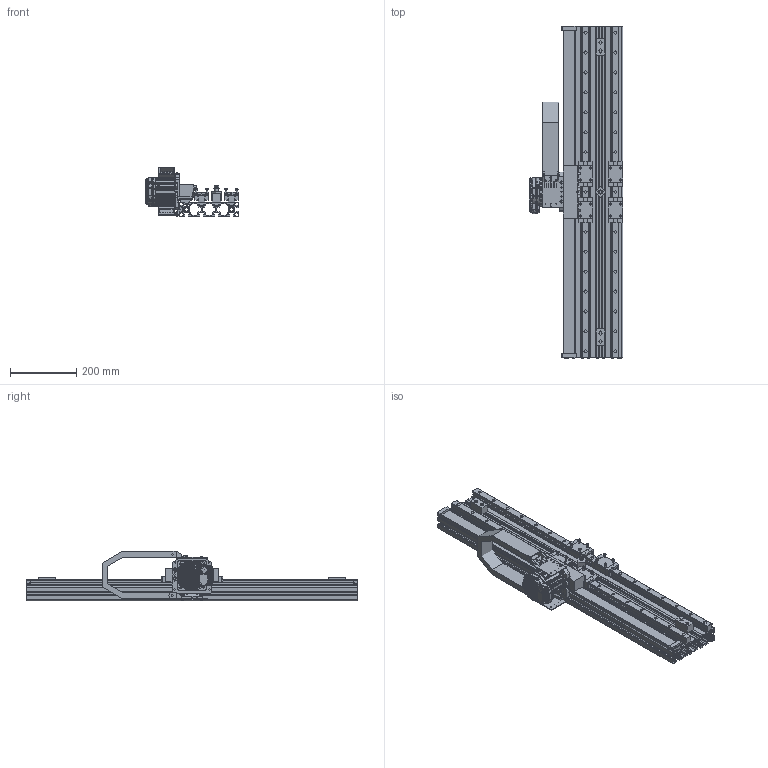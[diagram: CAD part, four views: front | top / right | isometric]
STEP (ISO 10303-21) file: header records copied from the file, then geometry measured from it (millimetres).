
FILE_DESCRIPTION( ( '' ), ' ' );
FILE_NAME( '/vol/tmp/translate-16591366833736035889/5ce2cbc83c3c171654916089.step', '2019-05-20T15:46:22', ( '' ), ( '' ), ' ', ' ', ' ' );
FILE_SCHEMA( ( 'AUTOMOTIVE_DESIGN { 1 0 10303 214 1 1 1 1 }' ) );
Length unit declared in the file: metre
Products named in the file (103): RAIL FASTENERS <10>; 20mm BEARING RAIL CAP; 102684-001 BOSCH 10mm T-BLOCK M5; 100001-8065 M5-.80 X 25 ALLOY SHCS; RAIL FASTENERS <3>; RAIL FASTENERS <11>; TRAY FASTENERS <5>; #7950; #7958; RAIL FASTENERS <17>; RAIL FASTENERS <6>; RAIL FASTENERS <1>; RAIL FASTENERS <14>; RAIL FASTENERS <15>; RAIL FASTENERS <16>; RAIL FASTENERS <4>; RAIL FASTENERS <2>; RAIL FASTENERS <5>; TRAY FASTENERS <1>; RAIL FASTENERS <7>; RAIL FASTENERS <9>; RAIL FASTENERS <12>; RAIL FASTENERS <13>; RAIL FASTENERS <8>; TRAY FASTENERS <3>; TRAY FASTENERS <2>; TRAY FASTENERS <4>; 104587-001 SBL-M DYNAMIC BEARING ASSEMBLY <2>; 103126-001 SBL-M BEARING SHAFT; 102638-005 5202 SHIELDED DOUBLE ROW BALL BEARING; RAIL <1>; 106888-001 20mm RAIL COVER; 102732-1000 20mm STANDARD GUIDE RAIL; RAIL <2>; CPM34XX & PINION <1>; 100013-008 M4 X 6 SS SET SCREW; 102695-001 SERVOBELT PINION GEAR 15T .500 BORE; GENERIC CPM 342X; TRAY <1>; 102656-1000 SBL-M BELT TRAY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
Assembly tree (277 placements, depth 5):
  Assem1
    102567-001 T5 X 32mm BELTING
    102977-001 LINKS
    1000 CHASSIS <1>
      102572-1000 45-SERIES PROFILE 45X180H
      RAIL <1>
        106888-001 20mm RAIL COVER
        102732-1000 20mm STANDARD GUIDE RAIL
        RAIL FASTENERS <3>
          100001-8065 M5-.80 X 25 ALLOY SHCS
          102684-001 BOSCH 10mm T-BLOCK M5
          20mm BEARING RAIL CAP
        RAIL FASTENERS <15>
          100001-8065 M5-.80 X 25 ALLOY SHCS
          102684-001 BOSCH 10mm T-BLOCK M5
          20mm BEARING RAIL CAP
        RAIL FASTENERS <8>
          102684-001 BOSCH 10mm T-BLOCK M5
          100001-8065 M5-.80 X 25 ALLOY SHCS
          20mm BEARING RAIL CAP
        RAIL FASTENERS <1>
          100001-8065 M5-.80 X 25 ALLOY SHCS
          102684-001 BOSCH 10mm T-BLOCK M5
          20mm BEARING RAIL CAP
        RAIL FASTENERS <16>
          20mm BEARING RAIL CAP
          102684-001 BOSCH 10mm T-BLOCK M5
          100001-8065 M5-.80 X 25 ALLOY SHCS
        RAIL FASTENERS <11>
          102684-001 BOSCH 10mm T-BLOCK M5
          20mm BEARING RAIL CAP
          100001-8065 M5-.80 X 25 ALLOY SHCS
        RAIL FASTENERS <13>
          20mm BEARING RAIL CAP
          100001-8065 M5-.80 X 25 ALLOY SHCS
          102684-001 BOSCH 10mm T-BLOCK M5
        RAIL FASTENERS <10>
          102684-001 BOSCH 10mm T-BLOCK M5
          100001-8065 M5-.80 X 25 ALLOY SHCS
          20mm BEARING RAIL CAP
        RAIL FASTENERS <5>
          20mm BEARING RAIL CAP
          100001-8065 M5-.80 X 25 ALLOY SHCS
          102684-001 BOSCH 10mm T-BLOCK M5
        RAIL FASTENERS <9>
          20mm BEARING RAIL CAP
          102684-001 BOSCH 10mm T-BLOCK M5
          100001-8065 M5-.80 X 25 ALLOY SHCS
        RAIL FASTENERS <12>
          102684-001 BOSCH 10mm T-BLOCK M5
          100001-8065 M5-.80 X 25 ALLOY SHCS
          20mm BEARING RAIL CAP
        RAIL FASTENERS <6>
          20mm BEARING RAIL CAP
          100001-8065 M5-.80 X 25 ALLOY SHCS
          102684-001 BOSCH 10mm T-BLOCK M5
        RAIL FASTENERS <2>
          100001-8065 M5-.80 X 25 ALLOY SHCS
          20mm BEARING RAIL CAP
          102684-001 BOSCH 10mm T-BLOCK M5
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Bounding box: 282.42 x 1000 x 150.3 mm (x, y, z)
Topology: 245 solids, 250 shells, 9349 faces, 23648 edges, 14975 vertices
Faces by surface type: plane 4096, cylinder 2389, bspline 1034, torus 905, cone 742, sphere 141, extrusion 40, revolution 2
Full cylindrical faces by diameter (mm): 0.152 x1, 2.2 x31, 2.261 x25, 2.44 x25, 2.47 x4, 2.5 x40, 2.6 x8, 2.66 x8, 2.997 x4, 3 x20, 3.175 x1, 3.184 x1, 3.2 x4, 3.3 x5, 3.454 x5, 4 x2, 4.166 x5, 4.2 x7, 4.216 x16, 4.5 x5, 5 x54, 5.004 x60, 5.156 x5, 5.284 x1, 5.5 x44, 5.563 x12, 5.6 x4, 5.85 x8, 6 x8, 6.3 x6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
Entity records: 337695 total; most frequent: CARTESIAN_POINT 137689, ORIENTED_EDGE 30602, DIRECTION 30229, EDGE_CURVE 15301, AXIS2_PLACEMENT_3D 12133, VERTEX_POINT 10037, EDGE_LOOP 7808, FACE_OUTER_BOUND 7101
